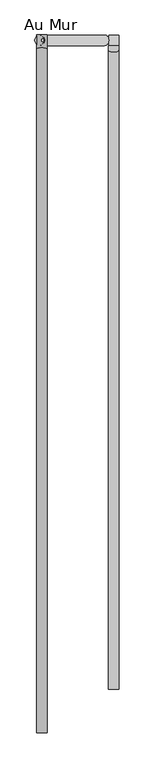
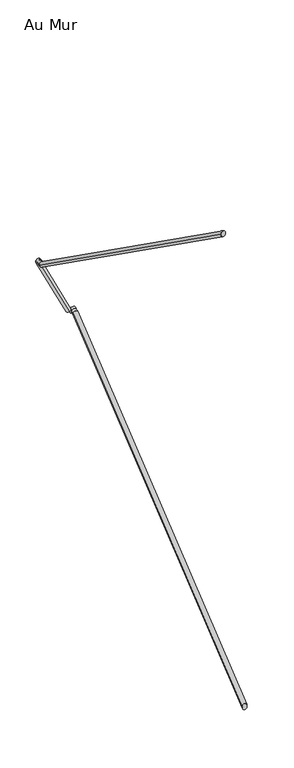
"""IFC4 building model written with IfcOpenShell, lengths in millimetres: railing geometry, Au Mur."""

from ifc_helpers import new_model, si_unit, frame, origin, place, context, project, spatial, circle_curve, ellipse_curve, source, transform, mapped, element, save
from ifc_brep_helpers import plane_surface, cylinder_surface, advanced_brep


def au_mur_37c76358(model_context):
    return source(origin(), model_context, "Body", "AdvancedBrep", [
        advanced_brep(
        [(-10748.5891731, -7254.1151398, 5164.8276361), (-10778.5891731, -7254.1151398, 5164.8276361), (-10748.5891731, -5432.8092556, 6642.6826697), (-10778.5891731, -5432.8092556, 6642.6826697), (-10748.5891731, -5418.7151397, 6642.6826697), (-10778.5891731, -5418.7151397, 6642.6826697)],
        [
            (0, 1, ellipse_curve(frame((-10763.5891731, -7254.1151398, 5164.8276361), z_axis=(0.0, -1.0, 0.0), x_axis=(0.0, 0.0, -1.0)), 19.3169033, 15.0)),
            (1, 0, ellipse_curve(frame((-10763.5891731, -7254.1151398, 5164.8276361), z_axis=(0.0, -1.0, 0.0), x_axis=(0.0, 0.0, -1.0)), 19.3169033, 15.0)),
            (0, 2),
            (2, 3, ellipse_curve(frame((-10763.5891731, -5432.8092556, 6642.6826697), z_axis=(0.0, -0.9424759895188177, -0.3342738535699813), x_axis=(0.0, 0.334273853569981, -0.9424759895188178)), 15.9155248, 15.0)),
            (3, 1),
            (3, 2, ellipse_curve(frame((-10763.5891731, -5432.8092556, 6642.6826697), z_axis=(0.0, -0.9424759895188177, -0.3342738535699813), x_axis=(0.0, 0.334273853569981, -0.9424759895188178)), 15.9155248, 15.0)),
            (4, 5, circle_curve(frame((-10763.5891731, -5418.7151397, 6642.6826697), z_axis=(0.0, 1.0, 0.0), x_axis=(-1.0, 0.0, 0.0)), 15.0)),
            (5, 4, circle_curve(frame((-10763.5891731, -5418.7151397, 6642.6826697), z_axis=(0.0, 1.0, 0.0), x_axis=(-1.0, 0.0, 0.0)), 15.0)),
            (2, 4),
            (5, 3),
        ],
        [
            plane_surface(frame((-10763.5891731, -7254.1151398, 5184.1445394), z_axis=(0.0, -1.0, 0.0), x_axis=(0.0, 0.0, 1.0))),
            cylinder_surface(frame((-10763.5891731, -7244.6637873, 5172.4967096), z_axis=(0.0, -0.7765219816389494, -0.6300901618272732), x_axis=(-1.0, 0.0, 0.0)), 15.0),
            plane_surface(frame((-10763.5891731, -5418.7151397, 6657.6826697), z_axis=(0.0, 1.0, 0.0), x_axis=(0.0, 0.0, 1.0))),
            cylinder_surface(frame((-10763.5891731, -5438.1293995, 6642.6826697), z_axis=(0.0, -1.0, 0.0), x_axis=(-1.0, 0.0, 0.0)), 15.0),
        ],
        [
            (0, [[1, 2]]),
            (1, [[-1, 3, 4, 5]]),
            (1, [[-2, -5, 6, -3]]),
            (2, [[7, 8]]),
            (3, [[-4, 9, -8, 10]]),
            (3, [[-6, -10, -7, -9]]),
        ],
    ),
        advanced_brep(
        [(-10748.5891731, -5388.7151397, 6642.6826697), (-10748.5891731, -5418.7151397, 6642.6826697), (-10777.0544801, -5388.7151397, 6642.6826697), (-10777.0544801, -5418.7151397, 6642.6826697)],
        [
            (0, 1, circle_curve(frame((-10748.5891731, -5403.7151397, 6642.6826697), z_axis=(1.0, 0.0, 0.0), x_axis=(0.0, -1.0, 0.0)), 15.0)),
            (1, 0, circle_curve(frame((-10748.5891731, -5403.7151397, 6642.6826697), z_axis=(1.0, 0.0, 0.0), x_axis=(0.0, -1.0, 0.0)), 15.0)),
            (2, 3, circle_curve(frame((-10777.0544801, -5403.7151397, 6642.6826697), z_axis=(-1.0, 0.0, 0.0), x_axis=(0.0, -1.0, 0.0)), 15.0)),
            (3, 2, circle_curve(frame((-10777.0544801, -5403.7151397, 6642.6826697), z_axis=(-1.0, 0.0, 0.0), x_axis=(0.0, -1.0, 0.0)), 15.0)),
            (0, 2),
            (3, 1),
        ],
        [
            plane_surface(frame((-10748.5891731, -5403.7151397, 6627.6826697), z_axis=(1.0, 0.0, 0.0), x_axis=(0.0, -1.0, 0.0))),
            plane_surface(frame((-10777.0544801, -5403.7151397, 6627.6826697), z_axis=(-1.0, 0.0, 0.0), x_axis=(0.0, -1.0, 0.0))),
            cylinder_surface(frame((-10748.5891731, -5403.7151397, 6642.6826697), z_axis=(1.0, 0.0, 0.0), x_axis=(0.0, -1.0, 0.0)), 15.0),
        ],
        [
            (0, [[1, 2]]),
            (1, [[3, 4]]),
            (2, [[-1, 5, -4, 6]]),
            (2, [[-2, -6, -3, -5]]),
        ],
    ),
        advanced_brep(
        [(-10790.5656984, -5388.7151397, 6651.1675351), (-10790.5656984, -5418.7151397, 6651.1675351), (-10975.8828376, -5388.7151397, 7035.4819758), (-10975.8828376, -5418.7151397, 7035.4819758)],
        [
            (0, 1, circle_curve(frame((-10790.5656984, -5403.7151397, 6651.1675351), z_axis=(0.43434230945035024, 0.0, -0.9007478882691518), x_axis=(0.0, -1.0, 0.0)), 15.0)),
            (1, 0, circle_curve(frame((-10790.5656984, -5403.7151397, 6651.1675351), z_axis=(0.43434230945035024, 0.0, -0.9007478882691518), x_axis=(0.0, -1.0, 0.0)), 15.0)),
            (2, 3, circle_curve(frame((-10975.8828376, -5403.7151397, 7035.4819758), z_axis=(-0.43434230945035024, 0.0, 0.9007478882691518), x_axis=(0.0, -1.0, 0.0)), 15.0)),
            (3, 2, circle_curve(frame((-10975.8828376, -5403.7151397, 7035.4819758), z_axis=(-0.43434230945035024, 0.0, 0.9007478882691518), x_axis=(0.0, -1.0, 0.0)), 15.0)),
            (0, 2),
            (3, 1),
        ],
        [
            plane_surface(frame((-10777.0544801, -5433.7151397, 6657.6826697), z_axis=(0.4343423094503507, 0.0, -0.9007478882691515), x_axis=(0.9007478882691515, 0.0, 0.4343423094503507))),
            plane_surface(frame((-10962.3716192, -5433.7151397, 7041.9971105), z_axis=(-0.4343423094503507, 0.0, 0.9007478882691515), x_axis=(0.9007478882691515, 0.0, 0.4343423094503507))),
            cylinder_surface(frame((-10790.5656984, -5403.7151397, 6651.1675351), z_axis=(0.43434230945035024, 0.0, -0.9007478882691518), x_axis=(0.0, -1.0, 0.0)), 15.0),
        ],
        [
            (0, [[1, 2]]),
            (1, [[3, 4]]),
            (2, [[-1, 5, -4, 6]]),
            (2, [[-2, -6, -3, -5]]),
        ],
    ),
        advanced_brep(
        [(-10962.3716192, -5388.7151397, 7026.9971105), (-10962.3716192, -5418.7151397, 7026.9971105), (-10969.3891704, -5388.7151397, 7026.9971105), (-10969.3891704, -5418.7151397, 7026.9971105)],
        [
            (0, 1, circle_curve(frame((-10962.3716192, -5403.7151397, 7026.9971105), z_axis=(1.0, 0.0, 0.0), x_axis=(0.0, -1.0, 0.0)), 15.0)),
            (1, 0, circle_curve(frame((-10962.3716192, -5403.7151397, 7026.9971105), z_axis=(1.0, 0.0, 0.0), x_axis=(0.0, -1.0, 0.0)), 15.0)),
            (2, 3, circle_curve(frame((-10969.3891704, -5403.7151397, 7026.9971105), z_axis=(-1.0, 0.0, 0.0), x_axis=(0.0, -1.0, 0.0)), 15.0)),
            (3, 2, circle_curve(frame((-10969.3891704, -5403.7151397, 7026.9971105), z_axis=(-1.0, 0.0, 0.0), x_axis=(0.0, -1.0, 0.0)), 15.0)),
            (0, 2),
            (3, 1),
        ],
        [
            plane_surface(frame((-10962.3716192, -5403.7151397, 7011.9971105), z_axis=(1.0, 0.0, 0.0), x_axis=(0.0, -1.0, 0.0))),
            plane_surface(frame((-10969.3891704, -5403.7151397, 7011.9971105), z_axis=(-1.0, 0.0, 0.0), x_axis=(0.0, -1.0, 0.0))),
            cylinder_surface(frame((-10962.3716192, -5403.7151397, 7026.9971105), z_axis=(1.0, 0.0, 0.0), x_axis=(0.0, -1.0, 0.0)), 15.0),
        ],
        [
            (0, [[1, 2]]),
            (1, [[3, 4]]),
            (2, [[-1, 5, -4, 6]]),
            (2, [[-2, -6, -3, -5]]),
        ],
    ),
        advanced_brep(
        [(-10984.3891704, -5388.7151397, 7026.9971105), (-10954.3891704, -5388.7151397, 7026.9971105), (-10984.3891704, -5429.0006995, 7026.9971105), (-10954.3891704, -5429.0006995, 7026.9971105), (-10984.3891704, -7379.1151398, 8411.1855356), (-10954.3891704, -7379.1151398, 8411.1855356)],
        [
            (0, 1, circle_curve(frame((-10969.3891704, -5388.7151397, 7026.9971105), z_axis=(0.0, 1.0, 0.0), x_axis=(1.0, 0.0, 0.0)), 15.0)),
            (1, 0, circle_curve(frame((-10969.3891704, -5388.7151397, 7026.9971105), z_axis=(0.0, 1.0, 0.0), x_axis=(1.0, 0.0, 0.0)), 15.0)),
            (0, 2),
            (2, 3, ellipse_curve(frame((-10969.3891704, -5429.0006995, 7026.9971105), z_axis=(0.0, 0.952748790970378, -0.30375934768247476), x_axis=(0.0, 0.3037593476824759, 0.9527487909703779)), 15.7439192, 15.0)),
            (3, 1),
            (3, 2, ellipse_curve(frame((-10969.3891704, -5429.0006995, 7026.9971105), z_axis=(0.0, 0.952748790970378, -0.30375934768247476), x_axis=(0.0, 0.3037593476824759, 0.9527487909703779)), 15.7439192, 15.0)),
            (4, 5, ellipse_curve(frame((-10969.3891704, -7379.1151398, 8411.1855356), z_axis=(0.0, -1.0, 0.0), x_axis=(0.0, 0.0, -1.0)), 18.3945141, 15.0)),
            (5, 4, ellipse_curve(frame((-10969.3891704, -7379.1151398, 8411.1855356), z_axis=(0.0, -1.0, 0.0), x_axis=(0.0, 0.0, -1.0)), 18.3945141, 15.0)),
            (2, 4),
            (5, 3),
        ],
        [
            plane_surface(frame((-10969.3891704, -5388.7151397, 7041.9971105), z_axis=(0.0, 1.0, 0.0), x_axis=(0.0, 0.0, -1.0))),
            cylinder_surface(frame((-10969.3891704, -5388.7151397, 7026.9971105), z_axis=(0.0, 1.0, 0.0), x_axis=(1.0, 0.0, 0.0)), 15.0),
            plane_surface(frame((-10969.3891704, -7379.1151398, 8429.5800498), z_axis=(0.0, -1.0, 0.0), x_axis=(0.0, 0.0, -1.0))),
            cylinder_surface(frame((-10969.3891704, -5432.9005274, 7029.7652027), z_axis=(0.0, 0.8154605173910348, -0.5788127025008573), x_axis=(1.0, 0.0, 0.0)), 15.0),
        ],
        [
            (0, [[1, 2]]),
            (1, [[-1, 3, 4, 5]]),
            (1, [[-2, -5, 6, -3]]),
            (2, [[7, 8]]),
            (3, [[-4, 9, -8, 10]]),
            (3, [[-6, -10, -7, -9]]),
        ],
    ),
    ])


if __name__ == "__main__":
    model = new_model("IFC4")
    model_context = context("Model", 3, world=origin())
    ifc_project = project(units=[si_unit("LENGTHUNIT", "METRE", prefix="MILLI")], contexts=[model_context])
    site = spatial("IfcSite", under=ifc_project)
    building = spatial("IfcBuilding", under=site)
    placement = place(None, origin())
    au_mur_shape = au_mur_37c76358(model_context)
    element("IfcRailing", 1, ObjectType="Au Mur", at=placement, inside=building, context=model_context, shape_type="MappedRepresentation", body=[
        mapped(au_mur_shape, transform((0.0, 0.0, 0.0), x_axis=(1.0, 0.0, 0.0), y_axis=(0.0, 1.0, 0.0), z_axis=(0.0, 0.0, 1.0))),
    ])
    save(model, "model.ifc")
